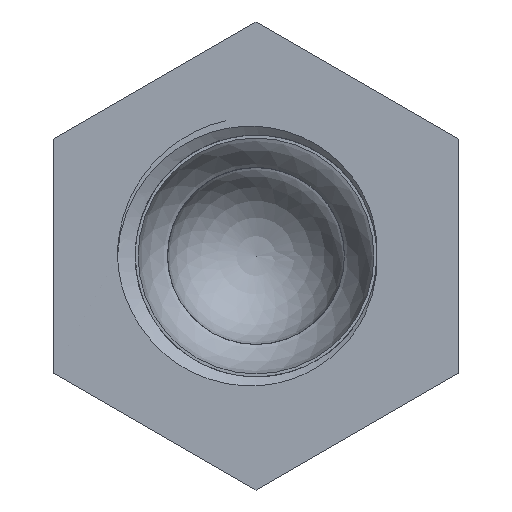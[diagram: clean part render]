
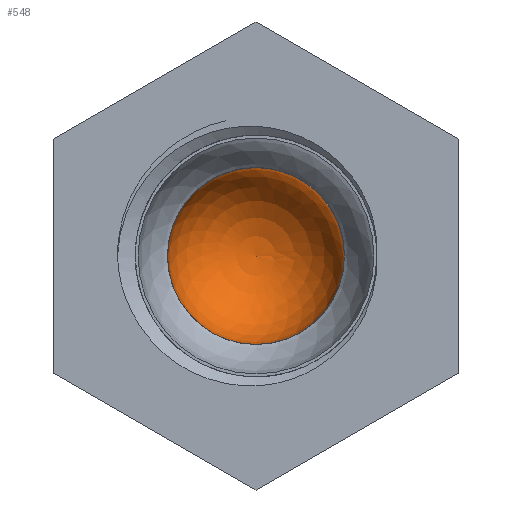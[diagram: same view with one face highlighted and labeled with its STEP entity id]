
A CAD part, left-side view. The second image highlights one B-rep face of the part: STEP entity #548.
In plain terms, the highlighted spherical face has radius 3.81 mm.
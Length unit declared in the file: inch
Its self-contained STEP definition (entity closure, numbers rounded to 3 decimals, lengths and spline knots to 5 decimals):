
#42=SPHERICAL_SURFACE('',#606,0.15);
#52=FACE_OUTER_BOUND('',#84,.T.);
#84=EDGE_LOOP('',(#399,#400,#401));
#115=CIRCLE('',#607,0.15);
#116=CIRCLE('',#608,0.15);
#244=VERTEX_POINT('',#2229);
#245=VERTEX_POINT('',#2231);
#308=EDGE_CURVE('',#244,#244,#115,.T.);
#309=EDGE_CURVE('',#245,#244,#116,.T.);
#399=ORIENTED_EDGE('',*,*,#308,.F.);
#400=ORIENTED_EDGE('',*,*,#309,.F.);
#401=ORIENTED_EDGE('',*,*,#309,.T.);
#548=ADVANCED_FACE('',(#52),#42,.F.);
#606=AXIS2_PLACEMENT_3D('',#2228,#676,#677);
#607=AXIS2_PLACEMENT_3D('',#2230,#678,#679);
#608=AXIS2_PLACEMENT_3D('',#2232,#680,#681);
#676=DIRECTION('center_axis',(1.,0.,0.));
#677=DIRECTION('ref_axis',(0.,1.,0.));
#678=DIRECTION('center_axis',(1.,0.,0.));
#679=DIRECTION('ref_axis',(0.,0.814,-0.581));
#680=DIRECTION('center_axis',(0.,0.,
-1.));
#681=DIRECTION('ref_axis',(0.,-1.,0.));
#2228=CARTESIAN_POINT('Origin',(2.91336,1.01232,1.51301));
#2229=CARTESIAN_POINT('',(2.91336,0.86232,1.51301));
#2230=CARTESIAN_POINT('Origin',(2.91336,1.01232,1.51301));
#2231=CARTESIAN_POINT('',(3.06336,1.01232,1.51301));
#2232=CARTESIAN_POINT('Origin',(2.91336,1.01232,1.51301));
